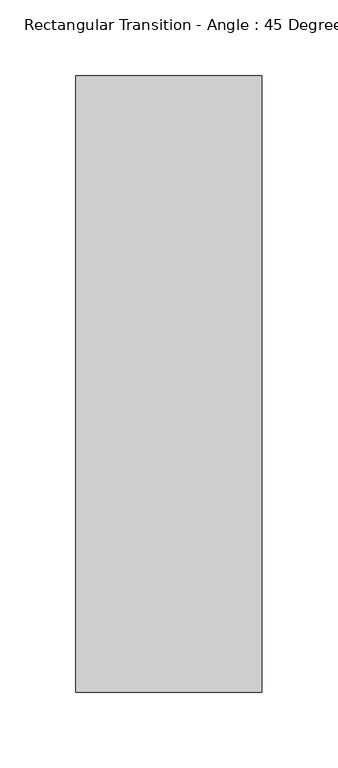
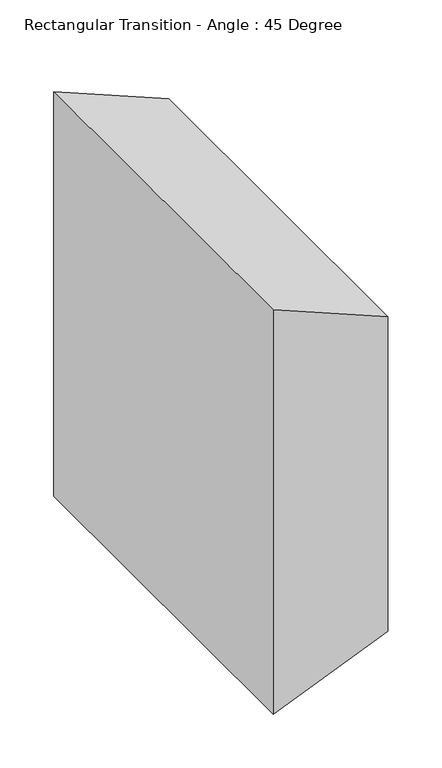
"""IFC4 building model written with IfcOpenShell, lengths in millimetres: duct fitting geometry, Rectangular Transition - Angle : 45 Degree."""

from ifc_helpers import new_model, si_unit, frame, origin, place, context, project, spatial, polyline, outline, extrude, source, transform, mapped, element, save


def rectangular_transition_angle_45_degree_43c6b1ce(model_context):
    return source(origin(), model_context, "Body", "SweptSolid", [
        extrude(outline(polyline([(228.6, 0.0), (-228.6, 0.0), (-177.8, 122.642049), (177.8, 122.642049), (228.6, 0.0)])), frame((0.0, -203.2, 0.0), z_axis=(0.0, 1.0, 0.0), x_axis=(0.0, 0.0, 1.0)), (0.0, 0.0, 1.0), 406.4),
    ])


if __name__ == "__main__":
    model = new_model("IFC4")
    model_context = context("Model", 3, world=origin())
    ifc_project = project(units=[si_unit("LENGTHUNIT", "METRE", prefix="MILLI")], contexts=[model_context])
    site = spatial("IfcSite", under=ifc_project)
    building = spatial("IfcBuilding", under=site)
    placement = place(None, origin())
    rectangular_transition_angle_45_degree_shape = rectangular_transition_angle_45_degree_43c6b1ce(model_context)
    element("IfcDuctFitting", 1, ObjectType="Rectangular Transition - Angle : 45 Degree", at=placement, inside=building, context=model_context, shape_type="MappedRepresentation", body=[
        mapped(rectangular_transition_angle_45_degree_shape, transform((0.0, 0.0, 0.0), x_axis=(1.0, 0.0, 0.0), y_axis=(0.0, 1.0, 0.0), z_axis=(0.0, 0.0, 1.0))),
    ])
    save(model, "model.ifc")
